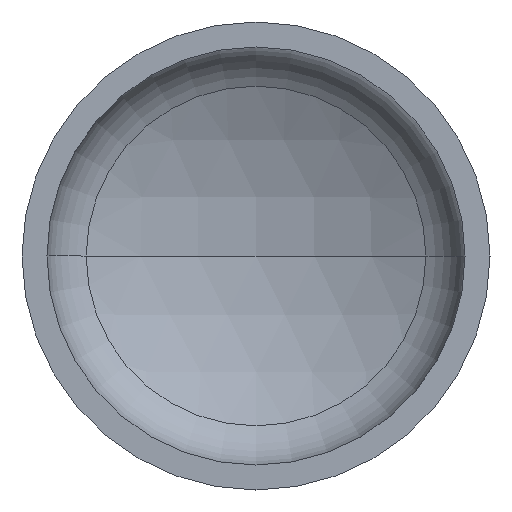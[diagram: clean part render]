
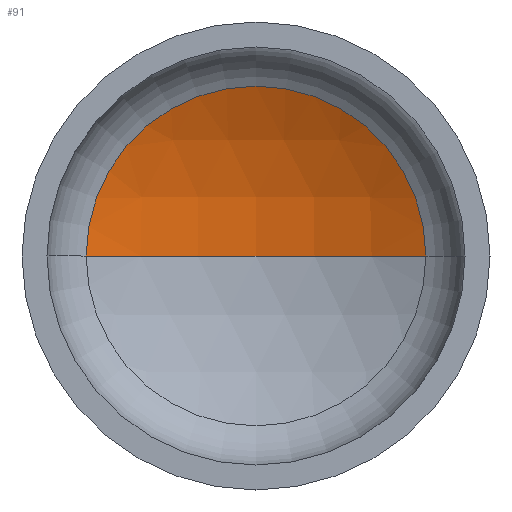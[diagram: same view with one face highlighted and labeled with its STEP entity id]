
A CAD part, front view. The second image highlights one B-rep face of the part: STEP entity #91.
In plain terms, the highlighted spherical face has radius 480 mm.
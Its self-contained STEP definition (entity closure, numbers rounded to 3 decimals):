
#6 = VERTEX_POINT ( 'NONE', #355 ) ;
#8 = DIRECTION ( 'NONE',  ( 1., 0., 0. ) ) ;
#10 = DIRECTION ( 'NONE',  ( 0., -1., 0. ) ) ;
#15 = ORIENTED_EDGE ( 'NONE', *, *, #172, .T. ) ;
#20 = CARTESIAN_POINT ( 'NONE',  ( 0., 181.991, 0. ) ) ;
#49 = AXIS2_PLACEMENT_3D ( 'NONE', #206, #208, #222 ) ;
#53 = ORIENTED_EDGE ( 'NONE', *, *, #176, .T. ) ;
#57 = AXIS2_PLACEMENT_3D ( 'NONE', #96, #293, #314 ) ;
#58 = AXIS2_PLACEMENT_3D ( 'NONE', #20, #10, #8 ) ;
#91 = ADVANCED_FACE ( 'NONE', ( #396 ), #281, .F. ) ;
#96 = CARTESIAN_POINT ( 'NONE',  ( 0., -245.786, 0. ) ) ;
#114 = AXIS2_PLACEMENT_3D ( 'NONE', #237, #236, #235 ) ;
#145 = VERTEX_POINT ( 'NONE', #317 ) ;
#151 = EDGE_LOOP ( 'NONE', ( #188, #53, #15 ) ) ;
#152 = VERTEX_POINT ( 'NONE', #336 ) ;
#172 = EDGE_CURVE ( 'NONE', #152, #6, #322, .T. ) ;
#176 = EDGE_CURVE ( 'NONE', #145, #152, #266, .T. ) ;
#178 = EDGE_CURVE ( 'NONE', #145, #6, #194, .T. ) ;
#188 = ORIENTED_EDGE ( 'NONE', *, *, #178, .F. ) ;
#194 = CIRCLE ( 'NONE', #49, 480. ) ;
#206 = CARTESIAN_POINT ( 'NONE',  ( 0., -245.786, 0. ) ) ;
#208 = DIRECTION ( 'NONE',  ( 0., 0., 1. ) ) ;
#222 = DIRECTION ( 'NONE',  ( 1., 0., 0. ) ) ;
#235 = DIRECTION ( 'NONE',  ( -1., 0., 0. ) ) ;
#236 = DIRECTION ( 'NONE',  ( 0., 0., -1. ) ) ;
#237 = CARTESIAN_POINT ( 'NONE',  ( 0., -245.786, 0. ) ) ;
#266 = CIRCLE ( 'NONE', #57, 480. ) ;
#281 = SPHERICAL_SURFACE ( 'NONE', #114, 480. ) ;
#293 = DIRECTION ( 'NONE',  ( 0., 0., -1. ) ) ;
#314 = DIRECTION ( 'NONE',  ( -1., 0., 0. ) ) ;
#317 = CARTESIAN_POINT ( 'NONE',  ( 0., 234.214, 0. ) ) ;
#322 = CIRCLE ( 'NONE', #58, 217.732 ) ;
#336 = CARTESIAN_POINT ( 'NONE',  ( 217.732, 181.991, 0. ) ) ;
#355 = CARTESIAN_POINT ( 'NONE',  ( -217.732, 181.991, 0. ) ) ;
#396 = FACE_OUTER_BOUND ( 'NONE', #151, .T. ) ;
